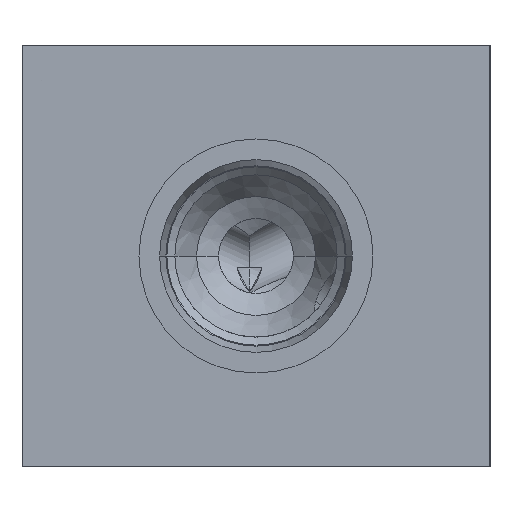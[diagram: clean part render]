
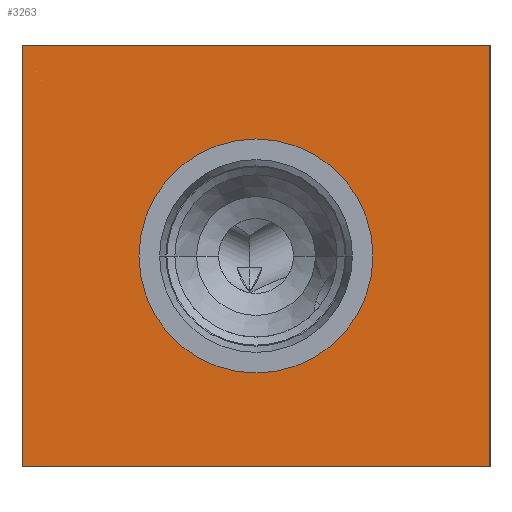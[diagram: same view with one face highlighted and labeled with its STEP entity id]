
A CAD part, left-side view. The second image highlights one B-rep face of the part: STEP entity #3263.
In plain terms, the highlighted planar face has unit normal (-1, 0, 0).
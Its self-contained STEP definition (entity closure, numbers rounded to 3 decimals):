
#22=DIRECTION('',(0.,0.,-1.));
#23=VECTOR('',#22,45.);
#24=CARTESIAN_POINT('',(0.,0.,0.));
#25=LINE('',#24,#23);
#30=DIRECTION('',(0.,1.,0.));
#31=VECTOR('',#30,50.);
#32=CARTESIAN_POINT('',(0.,0.,-45.));
#33=LINE('',#32,#31);
#37=DIRECTION('',(0.,0.,1.));
#38=VECTOR('',#37,45.);
#39=CARTESIAN_POINT('',(0.,50.,-45.));
#40=LINE('',#39,#38);
#44=DIRECTION('',(0.,-1.,0.));
#45=VECTOR('',#44,50.);
#46=CARTESIAN_POINT('',(0.,50.,0.));
#47=LINE('',#46,#45);
#51=CARTESIAN_POINT('',(0.,25.,-22.5));
#52=DIRECTION('',(1.,0.,0.));
#53=DIRECTION('',(0.,-1.,0.));
#54=AXIS2_PLACEMENT_3D('',#51,#52,#53);
#59=CARTESIAN_POINT('',(0.,25.,-22.5));
#60=DIRECTION('',(1.,0.,0.));
#61=DIRECTION('',(0.,1.,0.));
#62=AXIS2_PLACEMENT_3D('',#59,#60,#61);
#2965=CARTESIAN_POINT('',(0.,0.,0.));
#2966=CARTESIAN_POINT('',(0.,0.,-45.));
#2967=VERTEX_POINT('',#2965);
#2968=VERTEX_POINT('',#2966);
#2969=CARTESIAN_POINT('',(0.,50.,-45.));
#2970=VERTEX_POINT('',#2969);
#2971=CARTESIAN_POINT('',(0.,50.,0.));
#2972=VERTEX_POINT('',#2971);
#3085=CARTESIAN_POINT('',(0.,12.5,-22.5));
#3086=VERTEX_POINT('',#3085);
#3087=CARTESIAN_POINT('',(0.,37.5,-22.5));
#3088=VERTEX_POINT('',#3087);
#3242=CARTESIAN_POINT('',(0.,0.,0.));
#3243=DIRECTION('',(1.,0.,0.));
#3244=DIRECTION('',(0.,0.,-1.));
#3245=AXIS2_PLACEMENT_3D('',#3242,#3243,#3244);
#3246=PLANE('',#3245);
#3248=ORIENTED_EDGE('',*,*,#3247,.T.);
#3250=ORIENTED_EDGE('',*,*,#3249,.T.);
#3252=ORIENTED_EDGE('',*,*,#3251,.T.);
#3254=ORIENTED_EDGE('',*,*,#3253,.T.);
#3255=EDGE_LOOP('',(#3248,#3250,#3252,#3254));
#3256=FACE_OUTER_BOUND('',#3255,.F.);
#3258=ORIENTED_EDGE('',*,*,#3257,.F.);
#3260=ORIENTED_EDGE('',*,*,#3259,.F.);
#3261=EDGE_LOOP('',(#3258,#3260));
#3262=FACE_BOUND('',#3261,.F.);
#55=CIRCLE('',#54,12.5);
#63=CIRCLE('',#62,12.5);
#3247=EDGE_CURVE('',#2967,#2968,#25,.T.);
#3249=EDGE_CURVE('',#2968,#2970,#33,.T.);
#3251=EDGE_CURVE('',#2970,#2972,#40,.T.);
#3253=EDGE_CURVE('',#2972,#2967,#47,.T.);
#3257=EDGE_CURVE('',#3086,#3088,#55,.T.);
#3259=EDGE_CURVE('',#3088,#3086,#63,.T.);
#3263=ADVANCED_FACE('',(#3256,#3262),#3246,.F.);
